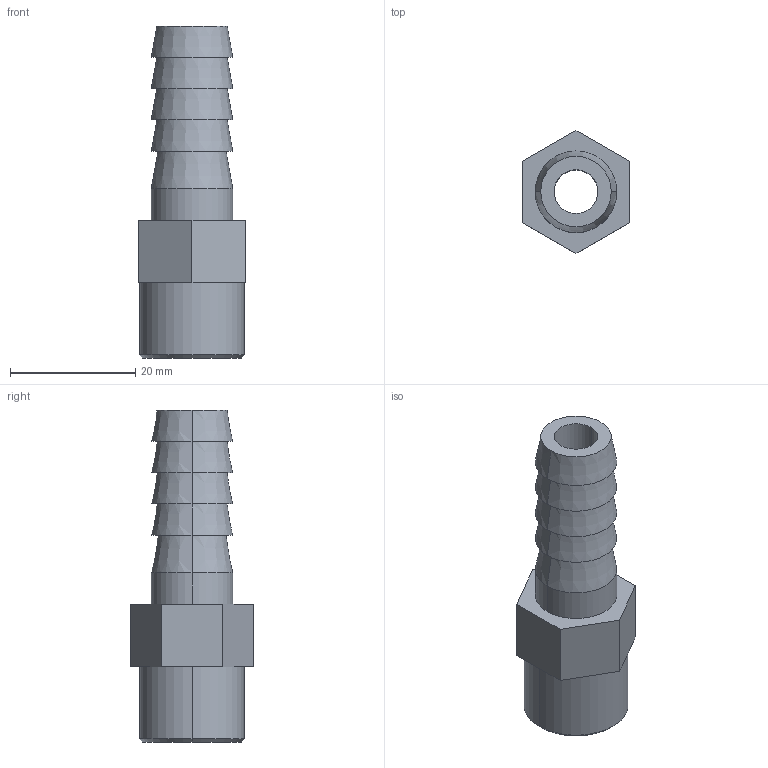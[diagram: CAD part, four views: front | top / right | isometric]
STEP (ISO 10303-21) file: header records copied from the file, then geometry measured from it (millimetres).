
FILE_DESCRIPTION (( 'STEP AP214' ), '1' );
FILE_NAME ('BruyRubio_BR87_3_8_GAS.STEP', '2019-12-17T11:04:33', ( '' ), ( '' ), 'SwSTEP 2.0', 'SolidWorks 2017', '' );
FILE_SCHEMA (( 'AUTOMOTIVE_DESIGN' ));
Length unit declared in the file: millimetre
Products named in the file (1): BruyRubio_BR87_3_8_GAS
Bounding box: 17 x 19.63 x 53 mm (x, y, z)
Volume: 6721 mm3; surface area: 4103.2 mm2
Topology: 1 solids, 1 shells, 32 faces, 68 edges, 44 vertices
Faces by surface type: plane 14, cone 12, cylinder 6
Entity records: 1262 total; most frequent: DIRECTION 166, CARTESIAN_POINT 145, ORIENTED_EDGE 136, EDGE_CURVE 68, AXIS2_PLACEMENT_3D 65, VERTEX_POINT 44, EDGE_LOOP 40, VECTOR 36
